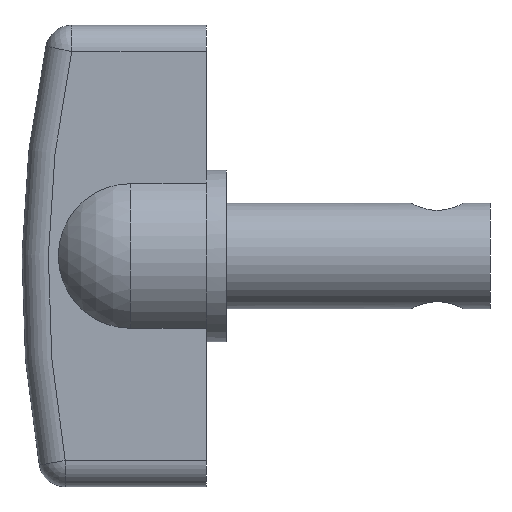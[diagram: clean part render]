
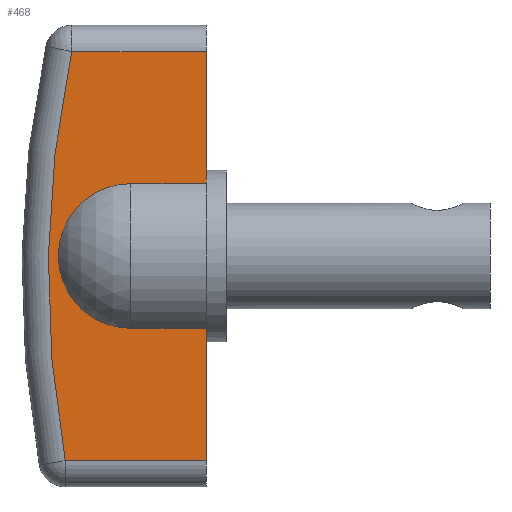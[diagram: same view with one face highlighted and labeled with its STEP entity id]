
A CAD part, left-side view. The second image highlights one B-rep face of the part: STEP entity #468.
In plain terms, the highlighted planar face has unit normal (-1, 0, 0).
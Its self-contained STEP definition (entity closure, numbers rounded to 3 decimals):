
#16=PLANE('',#527);
#34=LINE('',#833,#60);
#37=LINE('',#843,#63);
#39=LINE('',#848,#65);
#41=LINE('',#854,#67);
#42=LINE('',#856,#68);
#43=LINE('',#858,#69);
#44=LINE('',#862,#70);
#45=LINE('',#863,#71);
#60=VECTOR('',#620,10.);
#63=VECTOR('',#633,10.);
#65=VECTOR('',#639,10.);
#67=VECTOR('',#645,10.);
#68=VECTOR('',#646,10.);
#69=VECTOR('',#647,10.);
#70=VECTOR('',#650,10.);
#71=VECTOR('',#651,10.);
#95=CIRCLE('',#520,79.56);
#99=CIRCLE('',#528,5.483);
#168=FACE_OUTER_BOUND('',#199,.T.);
#199=EDGE_LOOP('',(#375,#376,#377,#378,#379,#380,#381,#382,#383,#384));
#224=VERTEX_POINT('',#782);
#227=VERTEX_POINT('',#789);
#240=VERTEX_POINT('',#831);
#241=VERTEX_POINT('',#839);
#243=VERTEX_POINT('',#847);
#245=VERTEX_POINT('',#853);
#246=VERTEX_POINT('',#855);
#247=VERTEX_POINT('',#857);
#248=VERTEX_POINT('',#859);
#249=VERTEX_POINT('',#861);
#285=EDGE_CURVE('',#240,#227,#34,.T.);
#287=EDGE_CURVE('',#227,#224,#95,.T.);
#291=EDGE_CURVE('',#224,#241,#37,.T.);
#293=EDGE_CURVE('',#243,#241,#39,.T.);
#296=EDGE_CURVE('',#240,#245,#41,.T.);
#297=EDGE_CURVE('',#246,#245,#42,.T.);
#298=EDGE_CURVE('',#247,#246,#43,.T.);
#299=EDGE_CURVE('',#248,#247,#99,.T.);
#300=EDGE_CURVE('',#249,#248,#44,.T.);
#301=EDGE_CURVE('',#243,#249,#45,.T.);
#375=ORIENTED_EDGE('',*,*,#291,.F.);
#376=ORIENTED_EDGE('',*,*,#287,.F.);
#377=ORIENTED_EDGE('',*,*,#285,.F.);
#378=ORIENTED_EDGE('',*,*,#296,.T.);
#379=ORIENTED_EDGE('',*,*,#297,.F.);
#380=ORIENTED_EDGE('',*,*,#298,.F.);
#381=ORIENTED_EDGE('',*,*,#299,.F.);
#382=ORIENTED_EDGE('',*,*,#300,.F.);
#383=ORIENTED_EDGE('',*,*,#301,.F.);
#384=ORIENTED_EDGE('',*,*,#293,.T.);
#468=ADVANCED_FACE('',(#168),#16,.F.);
#520=AXIS2_PLACEMENT_3D('',#836,#624,#625);
#527=AXIS2_PLACEMENT_3D('',#852,#643,#644);
#528=AXIS2_PLACEMENT_3D('',#860,#648,#649);
#620=DIRECTION('',(0.,1.,0.));
#624=DIRECTION('center_axis',(1.,0.,0.));
#625=DIRECTION('ref_axis',(0.,1.,0.016));
#633=DIRECTION('',(0.,-1.,0.));
#639=DIRECTION('',(0.,0.,1.));
#643=DIRECTION('center_axis',(1.,0.,0.));
#644=DIRECTION('ref_axis',(0.,0.,-1.));
#645=DIRECTION('',(0.,0.,1.));
#646=DIRECTION('',(0.,0.,-1.));
#647=DIRECTION('',(0.,-1.,0.));
#648=DIRECTION('center_axis',(-1.,0.,0.));
#649=DIRECTION('ref_axis',(0.,0.,-1.));
#650=DIRECTION('',(0.,1.,0.));
#651=DIRECTION('',(0.,0.,-1.));
#782=CARTESIAN_POINT('',(-3.,31.718,15.5));
#789=CARTESIAN_POINT('',(-3.,32.212,-15.5));
#831=CARTESIAN_POINT('',(-3.,21.5,-15.5));
#833=CARTESIAN_POINT('',(-3.,24.417,-15.5));
#836=CARTESIAN_POINT('Origin',(-3.,-46.06,-1.242));
#839=CARTESIAN_POINT('',(-3.,21.5,15.5));
#843=CARTESIAN_POINT('',(-3.,30.326,15.5));
#847=CARTESIAN_POINT('',(-3.,21.5,5.766));
#848=CARTESIAN_POINT('',(-3.,21.5,17.5));
#852=CARTESIAN_POINT('Origin',(-3.,27.334,-0.105));
#853=CARTESIAN_POINT('',(-3.,21.5,-5.766));
#854=CARTESIAN_POINT('',(-3.,21.5,17.5));
#855=CARTESIAN_POINT('',(-3.,21.5,-5.483));
#856=CARTESIAN_POINT('',(-3.,21.5,-0.053));
#857=CARTESIAN_POINT('',(-3.,27.25,-5.483));
#858=CARTESIAN_POINT('',(-3.,24.375,-5.483));
#859=CARTESIAN_POINT('',(-3.,27.25,5.483));
#860=CARTESIAN_POINT('Origin',(-3.,27.25,0.));
#861=CARTESIAN_POINT('',(-3.,21.5,5.483));
#862=CARTESIAN_POINT('',(-3.,24.375,5.483));
#863=CARTESIAN_POINT('',(-3.,21.5,-0.053));
